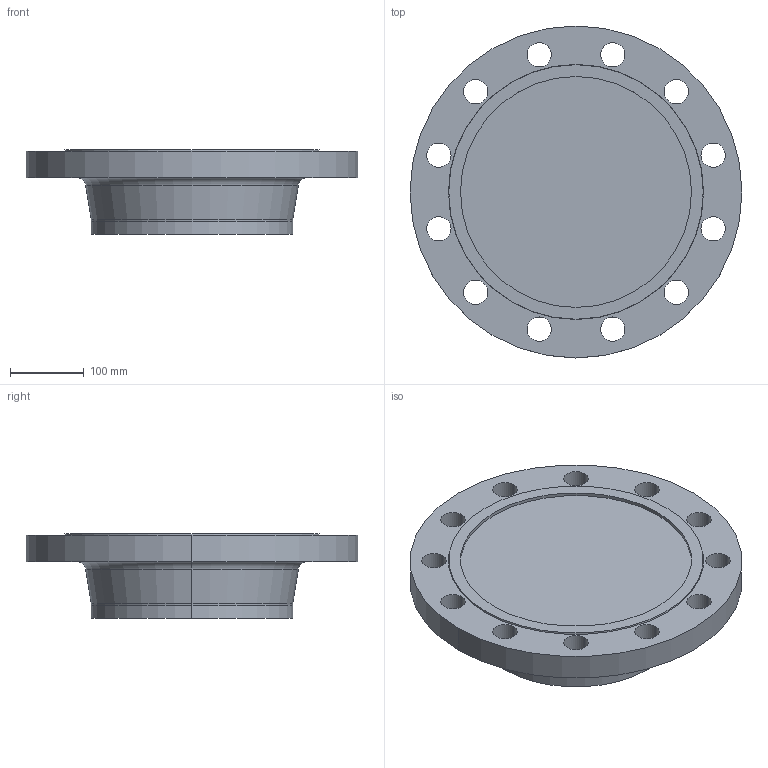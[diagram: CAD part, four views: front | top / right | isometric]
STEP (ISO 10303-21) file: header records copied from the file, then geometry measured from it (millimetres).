
FILE_DESCRIPTION (( 'STEP AP214' ), '1' );
FILE_NAME ('PN40 DN250 Type 21(ii) - Type F Face.STEP', '2019-01-05T03:25:02', ( '' ), ( '' ), 'SwSTEP 2.0', 'SolidWorks 2019', '' );
FILE_SCHEMA (( 'AUTOMOTIVE_DESIGN' ));
Length unit declared in the file: millimetre
Products named in the file (1): PN40 DN250 Type 21(ii) - Type F Face
Bounding box: 450 x 450 x 115 mm (x, y, z)
Volume: 9959780.4 mm3; surface area: 456471.7 mm2
Topology: 1 solids, 1 shells, 43 faces, 108 edges, 70 vertices
Faces by surface type: cylinder 30, plane 5, torus 4, cone 4
Entity records: 1410 total; most frequent: DIRECTION 270, CARTESIAN_POINT 222, ORIENTED_EDGE 216, AXIS2_PLACEMENT_3D 118, EDGE_CURVE 108, CIRCLE 74, EDGE_LOOP 70, VERTEX_POINT 70
